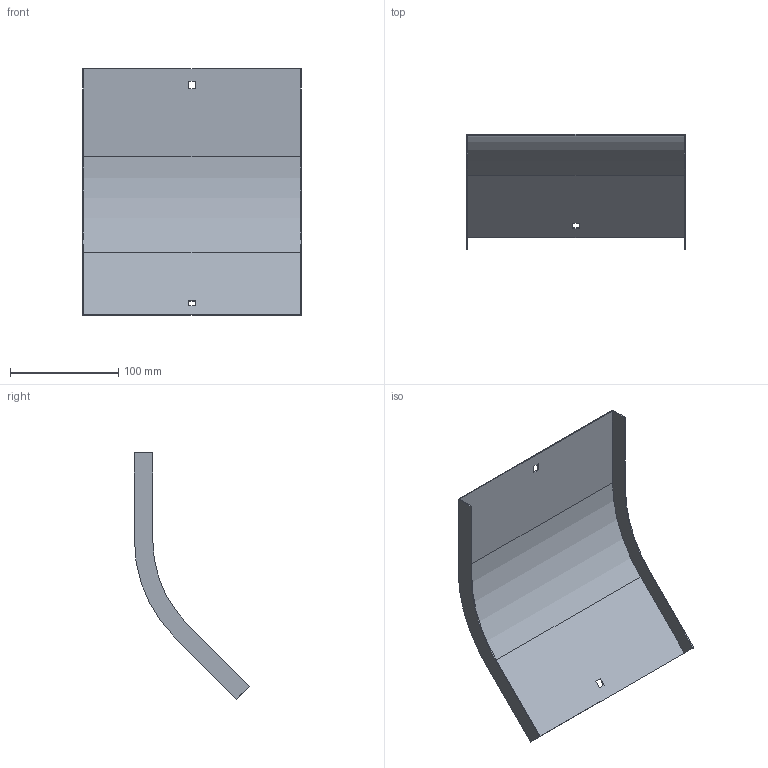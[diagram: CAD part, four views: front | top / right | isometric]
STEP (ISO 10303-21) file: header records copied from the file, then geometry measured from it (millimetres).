
FILE_DESCRIPTION (( 'STEP AP214' ), '1' );
FILE_NAME ('OD4_201.step', '2025-07-16T09:11:38', ( '' ), ( '' ), 'SwSTEP 2.0', 'SolidWorks 2023', '' );
FILE_SCHEMA (( 'AUTOMOTIVE_DESIGN' ));
Length unit declared in the file: millimetre
Products named in the file (1): OD4_201
Bounding box: 202 x 106.5 x 228.09 mm (x, y, z)
Volume: 60872.2 mm3; surface area: 122762.1 mm2
Topology: 1 solids, 1 shells, 26 faces, 72 edges, 48 vertices
Faces by surface type: plane 22, cylinder 4
Entity records: 855 total; most frequent: CARTESIAN_POINT 147, ORIENTED_EDGE 144, DIRECTION 134, EDGE_CURVE 72, LINE 64, VECTOR 64, VERTEX_POINT 48, AXIS2_PLACEMENT_3D 35
